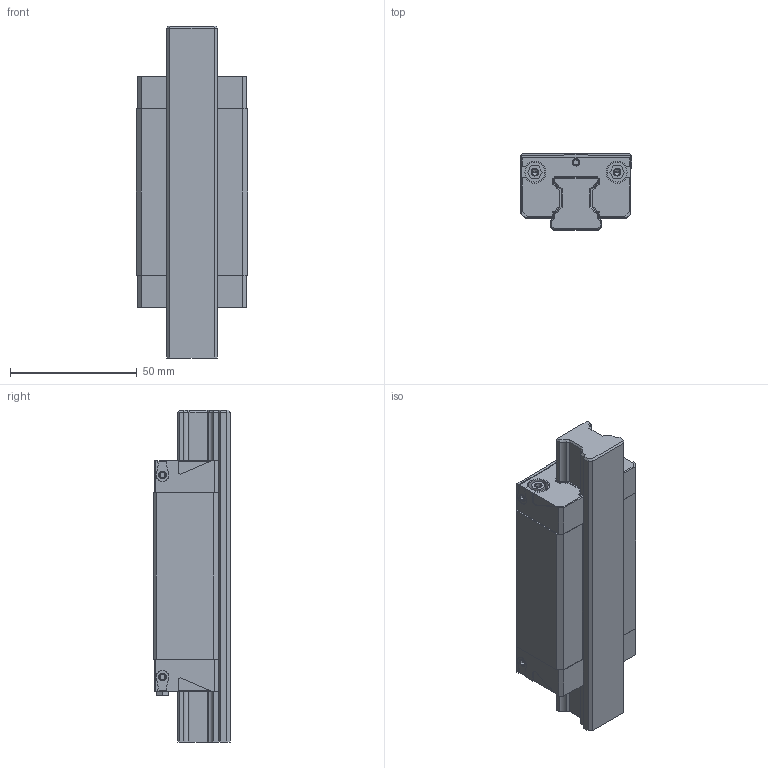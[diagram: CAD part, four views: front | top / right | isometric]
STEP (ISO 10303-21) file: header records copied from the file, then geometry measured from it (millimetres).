
FILE_DESCRIPTION((''),'2;1');
FILE_NAME('KWD_020_SLS_CS__ASM','2021-10-14T06:58:34',('ac91sw'),(''),'CREO PARAMETRIC BY PTC INC, 2020044','CREO PARAMETRIC BY PTC INC, 2020044','');
FILE_SCHEMA(('AUTOMOTIVE_DESIGN { 1 0 10303 214 1 1 1 1 }'));
Length unit declared in the file: millimetre
Products named in the file (7): KWD_020_SLS_CS__SKEL; R201280131; R200180102_Z; R343708901_Z; KWD_020_SLS_CS__PSF; R341702909_Z; KWD_020_SLS_CS__ASM
Assembly tree (11 placements, depth 2):
  KWD_020_SLS_CS__ASM
    KWD_020_SLS_CS__SKEL
    R201280131
    R200180102_Z  x2
    R343708901_Z  x5
    KWD_020_SLS_CS__PSF
    R341702909_Z
Bounding box: 44 x 30 x 131 mm (x, y, z)
Volume: 104252.9 mm3; surface area: 39022.1 mm2
Topology: 10 solids, 24 shells, 501 faces, 1294 edges, 827 vertices
Faces by surface type: plane 291, cylinder 146, cone 64
Entity records: 16403 total; most frequent: CARTESIAN_POINT 2065, DIRECTION 1620, ORIENTED_EDGE 1520, PROPERTY_DEFINITION 825, REPRESENTATION 816, PROPERTY_DEFINITION_REPRESENTATION 816, EDGE_CURVE 776, DESCRIPTIVE_REPRESENTATION_ITEM 759
